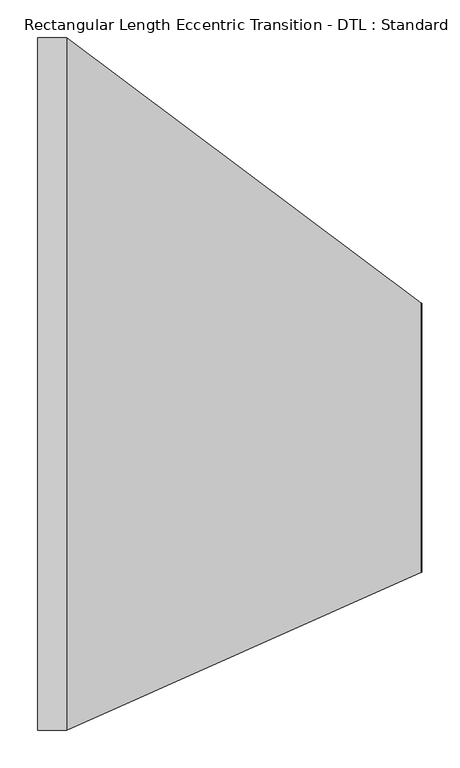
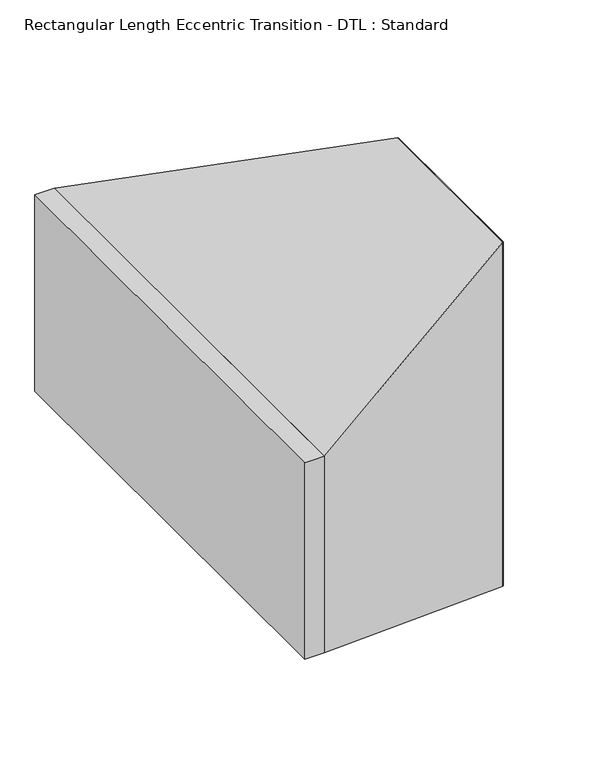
"""IFC4 building model written with IfcOpenShell, lengths in millimetres: duct fitting geometry, Rectangular Length Eccentric Transition - DTL : Standard."""

from ifc_helpers import new_model, si_unit, frame, origin, place, context, project, spatial, polyline, outline, extrude, faceted_brep, source, transform, mapped, element, save


def rectangular_length_eccentric_transition_dtl_standard_04142d37(model_context):
    return source(origin(), model_context, "Body", "SolidModel", [
        extrude(outline(polyline([(508.0, 106.9313901), (508.0, -248.6686099), (507.20625, -248.6686099), (507.20625, 106.9313901), (508.0, 106.9313901)])), frame((0.0, 0.0, -355.6), z_axis=(0.0, 0.0, 1.0), x_axis=(1.0, 0.0, 0.0)), (0.0, 0.0, 1.0), 711.2),
        extrude(outline(polyline([(38.1, 457.2), (38.1, -457.2), (0.0, -457.2), (0.0, 457.2), (38.1, 457.2)])), frame((0.0, 0.0, -203.2), z_axis=(0.0, 0.0, 1.0), x_axis=(1.0, 0.0, 0.0)), (0.0, 0.0, 1.0), 406.4),
        faceted_brep([(38.1, 457.2, 203.2), (38.1, 457.2, -203.2), (38.1, -457.2, -203.2), (38.1, -457.2, 203.2), (507.20625, 106.9313901, 355.6), (507.20625, -248.6686099, 355.6), (507.20625, -248.6686099, -355.6), (507.20625, 106.9313901, -355.6)], [[[0, 1, 2, 3]], [[4, 5, 6, 7]], [[4, 7, 1, 0]], [[7, 6, 2, 1]], [[6, 5, 3, 2]], [[5, 4, 0, 3]]]),
    ])


if __name__ == "__main__":
    model = new_model("IFC4")
    model_context = context("Model", 3, world=origin())
    ifc_project = project(units=[si_unit("LENGTHUNIT", "METRE", prefix="MILLI")], contexts=[model_context])
    site = spatial("IfcSite", under=ifc_project)
    building = spatial("IfcBuilding", under=site)
    placement = place(None, origin())
    rectangular_length_eccentric_transition_dtl_standard_shape = rectangular_length_eccentric_transition_dtl_standard_04142d37(model_context)
    element("IfcDuctFitting", 1, ObjectType="Rectangular Length Eccentric Transition - DTL : Standard", at=placement, inside=building, context=model_context, shape_type="MappedRepresentation", body=[
        mapped(rectangular_length_eccentric_transition_dtl_standard_shape, transform((0.0, 0.0, 0.0), x_axis=(1.0, 0.0, 0.0), y_axis=(0.0, 1.0, 0.0), z_axis=(0.0, 0.0, 1.0))),
    ])
    save(model, "model.ifc")
